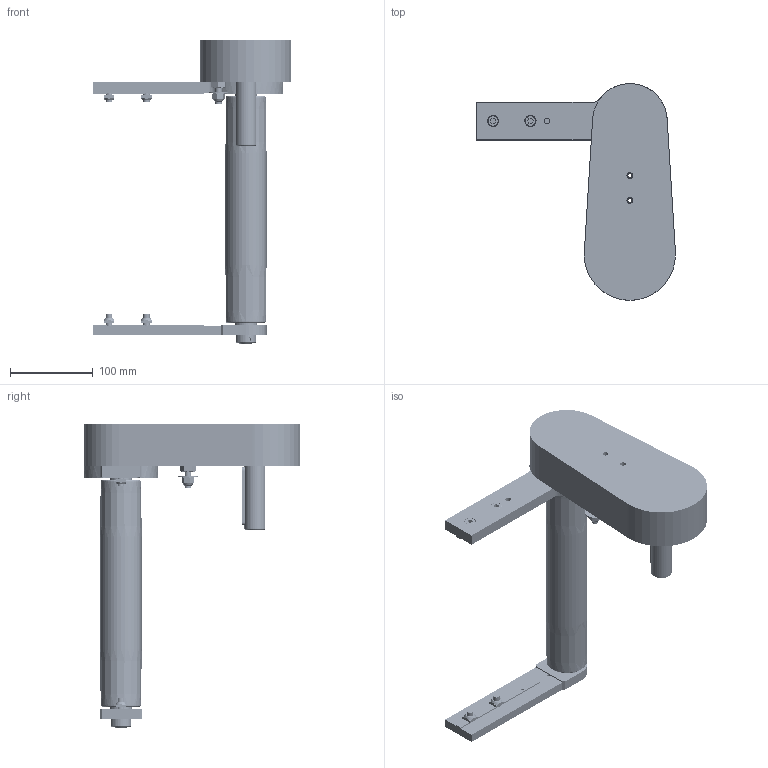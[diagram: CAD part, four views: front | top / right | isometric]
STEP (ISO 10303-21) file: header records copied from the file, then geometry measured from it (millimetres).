
FILE_DESCRIPTION (( 'STEP AP203' ), '1' );
FILE_NAME ('084.050.KTC.49.250.STEP', '2019-07-29T13:24:37', ( '' ), ( '' ), 'SwSTEP 2.0', 'SolidWorks 2018', '' );
FILE_SCHEMA (( 'CONFIG_CONTROL_DESIGN' ));
Length unit declared in the file: millimetre
Products named in the file (24): RONDELLE FASCIA LARGA UNI 6593_8.4x24 UNI 6593; 084.809.002; 084.802.017_084.802.017; 084.803.012; 084.810.001; 084.802.034_084.802.034; CUSCINETTI A SFERE_608-2RS; 084.050.KTC.49.250; 084.810.004; 084.803.014; 084.811.004; 084.302.000 DADI ALUSIC 13x13_084.302.004; DADI ESAGONALI AUTOBLOCCANTI UNI 7473 INOX_M8 UNI 7473 INOX; 084.815.104_Default<A macchina>; 084.301.000 VITI ALUSIC_084.301.003; CHIAVETTE_A 8x7x70 UNI 6604-69; 084.807.001_084.807.001; 084.813.001; 084.810.010; 084.809.003; 084.813.005; Circlip DIN 471 - 8 x 0.8_Circlip DIN 471 - 8 x 0.8; 084.810.005; 084.807.002_084.807.002
Assembly tree (32 placements, depth 3):
  084.050.KTC.49.250
    084.815.104_Default<A macchina>
    084.811.004
    084.813.001
    084.810.001  x2
    084.802.034_084.802.034
    084.802.017_084.802.017
    084.807.001_084.807.001
    084.807.002_084.807.002
    084.803.014  x2
    084.803.012
    084.809.002
    084.809.003
    084.810.005
      084.810.010
      084.810.004
      CUSCINETTI A SFERE_608-2RS  x2
      Circlip DIN 471 - 8 x 0.8_Circlip DIN 471 - 8 x 0.8
      RONDELLE FASCIA LARGA UNI 6593_8.4x24 UNI 6593
      DADI ESAGONALI AUTOBLOCCANTI UNI 7473 INOX_M8 UNI 7473 INOX
    084.301.000 VITI ALUSIC_084.301.003  x4
    084.302.000 DADI ALUSIC 13x13_084.302.004  x4
    CHIAVETTE_A 8x7x70 UNI 6604-69
    084.813.005
Bounding box: 240 x 261.5 x 366 mm (x, y, z)
Volume: 850799.4 mm3; surface area: 483096.4 mm2
Topology: 61 solids, 62 shells, 2854 faces, 6735 edges, 4305 vertices
Faces by surface type: cylinder 1399, plane 720, bspline 468, cone 172, torus 86, sphere 9
Entity records: 81297 total; most frequent: CARTESIAN_POINT 18493, DIRECTION 13655, ORIENTED_EDGE 11868, EDGE_CURVE 5934, AXIS2_PLACEMENT_3D 5764, VERTEX_POINT 3782, CIRCLE 3644, EDGE_LOOP 3104
